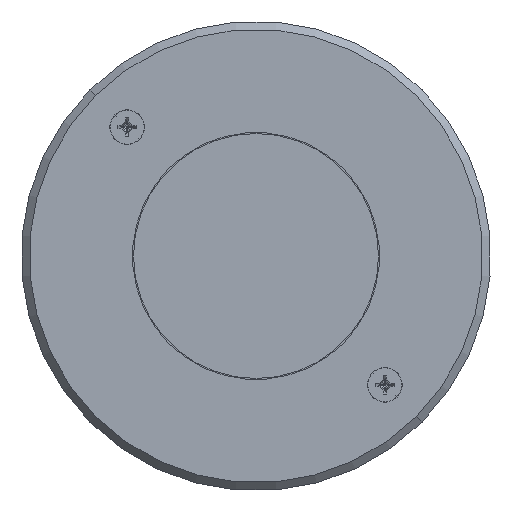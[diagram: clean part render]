
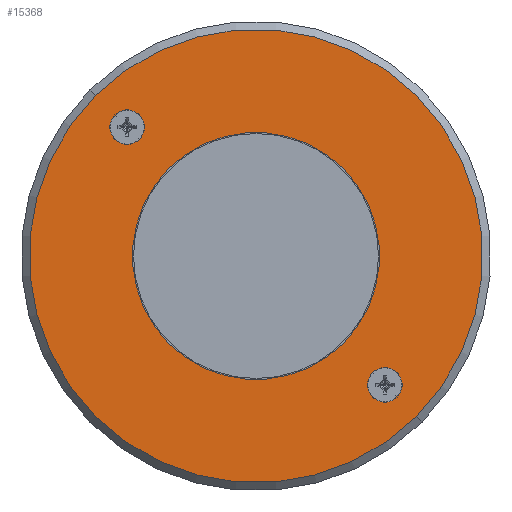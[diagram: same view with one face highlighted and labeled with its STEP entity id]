
A CAD part, front view. The second image highlights one B-rep face of the part: STEP entity #15368.
In plain terms, the highlighted planar face has unit normal (0, -1, 0) as drawn and (0, 1, 0) by its records, which use the part's own axes.
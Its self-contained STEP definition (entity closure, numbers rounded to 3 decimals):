
#14756=CARTESIAN_POINT('',(0.,3.,0.));
#14757=DIRECTION('',(0.,-1.,0.));
#14758=DIRECTION('',(-1.,0.,0.));
#14759=AXIS2_PLACEMENT_3D('',#14756,#14757,#14758);
#14761=CARTESIAN_POINT('',(0.,3.,0.));
#14762=DIRECTION('',(0.,-1.,0.));
#14763=DIRECTION('',(0.,0.,-1.));
#14764=AXIS2_PLACEMENT_3D('',#14761,#14762,#14763);
#14766=CARTESIAN_POINT('',(0.,3.,0.));
#14767=DIRECTION('',(0.,-1.,0.));
#14768=DIRECTION('',(1.,0.,0.));
#14769=AXIS2_PLACEMENT_3D('',#14766,#14767,#14768);
#14771=CARTESIAN_POINT('',(0.,3.,0.));
#14772=DIRECTION('',(0.,-1.,0.));
#14773=DIRECTION('',(0.,0.,1.));
#14774=AXIS2_PLACEMENT_3D('',#14771,#14772,#14773);
#14776=CARTESIAN_POINT('',(0.,3.,0.));
#14777=DIRECTION('',(0.,1.,0.));
#14778=DIRECTION('',(-1.,0.,0.));
#14779=AXIS2_PLACEMENT_3D('',#14776,#14777,#14778);
#14781=CARTESIAN_POINT('',(0.,3.,0.));
#14782=DIRECTION('',(0.,1.,0.));
#14783=DIRECTION('',(1.,0.,0.));
#14784=AXIS2_PLACEMENT_3D('',#14781,#14782,#14783);
#14786=CARTESIAN_POINT('',(-45.,3.,0.));
#14787=DIRECTION('',(0.,1.,0.));
#14788=DIRECTION('',(1.,0.,0.));
#14789=AXIS2_PLACEMENT_3D('',#14786,#14787,#14788);
#14791=CARTESIAN_POINT('',(-45.,3.,0.));
#14792=DIRECTION('',(0.,1.,0.));
#14793=DIRECTION('',(0.,0.,-1.));
#14794=AXIS2_PLACEMENT_3D('',#14791,#14792,#14793);
#14796=CARTESIAN_POINT('',(-45.,3.,0.));
#14797=DIRECTION('',(0.,1.,0.));
#14798=DIRECTION('',(-1.,0.,0.));
#14799=AXIS2_PLACEMENT_3D('',#14796,#14797,#14798);
#14801=CARTESIAN_POINT('',(-45.,3.,0.));
#14802=DIRECTION('',(0.,1.,0.));
#14803=DIRECTION('',(0.,0.,1.));
#14804=AXIS2_PLACEMENT_3D('',#14801,#14802,#14803);
#14806=CARTESIAN_POINT('',(45.,3.,0.));
#14807=DIRECTION('',(0.,1.,0.));
#14808=DIRECTION('',(-1.,0.,0.));
#14809=AXIS2_PLACEMENT_3D('',#14806,#14807,#14808);
#14811=CARTESIAN_POINT('',(45.,3.,0.));
#14812=DIRECTION('',(0.,1.,0.));
#14813=DIRECTION('',(0.,0.,1.));
#14814=AXIS2_PLACEMENT_3D('',#14811,#14812,#14813);
#14816=CARTESIAN_POINT('',(45.,3.,0.));
#14817=DIRECTION('',(0.,1.,0.));
#14818=DIRECTION('',(1.,0.,0.));
#14819=AXIS2_PLACEMENT_3D('',#14816,#14817,#14818);
#14821=CARTESIAN_POINT('',(45.,3.,0.));
#14822=DIRECTION('',(0.,1.,0.));
#14823=DIRECTION('',(0.,0.,-1.));
#14824=AXIS2_PLACEMENT_3D('',#14821,#14822,#14823);
#15146=CARTESIAN_POINT('',(0.,3.,-56.));
#15147=CARTESIAN_POINT('',(56.,3.,0.));
#15148=VERTEX_POINT('',#15146);
#15149=VERTEX_POINT('',#15147);
#15150=CARTESIAN_POINT('',(-56.,3.,0.));
#15151=VERTEX_POINT('',#15150);
#15152=CARTESIAN_POINT('',(0.,3.,56.));
#15153=VERTEX_POINT('',#15152);
#15154=CARTESIAN_POINT('',(-30.5,3.,0.));
#15155=CARTESIAN_POINT('',(30.5,3.,0.));
#15156=VERTEX_POINT('',#15154);
#15157=VERTEX_POINT('',#15155);
#15158=CARTESIAN_POINT('',(-40.75,3.,0.));
#15159=CARTESIAN_POINT('',(-45.,3.,-4.25));
#15160=VERTEX_POINT('',#15158);
#15161=VERTEX_POINT('',#15159);
#15162=CARTESIAN_POINT('',(-49.25,3.,0.));
#15163=VERTEX_POINT('',#15162);
#15164=CARTESIAN_POINT('',(-45.,3.,4.25));
#15165=VERTEX_POINT('',#15164);
#15166=CARTESIAN_POINT('',(40.75,3.,0.));
#15167=CARTESIAN_POINT('',(45.,3.,4.25));
#15168=VERTEX_POINT('',#15166);
#15169=VERTEX_POINT('',#15167);
#15170=CARTESIAN_POINT('',(49.25,3.,0.));
#15171=VERTEX_POINT('',#15170);
#15172=CARTESIAN_POINT('',(45.,3.,-4.25));
#15173=VERTEX_POINT('',#15172);
#15329=CARTESIAN_POINT('',(0.,3.,0.));
#15330=DIRECTION('',(0.,1.,0.));
#15331=DIRECTION('',(1.,0.,0.));
#15332=AXIS2_PLACEMENT_3D('',#15329,#15330,#15331);
#15333=PLANE('',#15332);
#15334=ORIENTED_EDGE('',*,*,#15318,.T.);
#15335=ORIENTED_EDGE('',*,*,#15316,.T.);
#15337=ORIENTED_EDGE('',*,*,#15336,.T.);
#15339=ORIENTED_EDGE('',*,*,#15338,.T.);
#15340=EDGE_LOOP('',(#15334,#15335,#15337,#15339));
#15341=FACE_OUTER_BOUND('',#15340,.F.);
#15343=ORIENTED_EDGE('',*,*,#15342,.T.);
#15345=ORIENTED_EDGE('',*,*,#15344,.T.);
#15346=EDGE_LOOP('',(#15343,#15345));
#15347=FACE_BOUND('',#15346,.F.);
#15349=ORIENTED_EDGE('',*,*,#15348,.T.);
#15351=ORIENTED_EDGE('',*,*,#15350,.T.);
#15353=ORIENTED_EDGE('',*,*,#15352,.T.);
#15355=ORIENTED_EDGE('',*,*,#15354,.T.);
#15356=EDGE_LOOP('',(#15349,#15351,#15353,#15355));
#15357=FACE_BOUND('',#15356,.F.);
#15359=ORIENTED_EDGE('',*,*,#15358,.T.);
#15361=ORIENTED_EDGE('',*,*,#15360,.T.);
#15363=ORIENTED_EDGE('',*,*,#15362,.T.);
#15365=ORIENTED_EDGE('',*,*,#15364,.T.);
#15366=EDGE_LOOP('',(#15359,#15361,#15363,#15365));
#15367=FACE_BOUND('',#15366,.F.);
#15368=ADVANCED_FACE('',(#15341,#15347,#15357,#15367),#15333,.T.);
#14760=CIRCLE('',#14759,56.);
#14765=CIRCLE('',#14764,56.);
#14770=CIRCLE('',#14769,56.);
#14775=CIRCLE('',#14774,56.);
#14780=CIRCLE('',#14779,30.5);
#14785=CIRCLE('',#14784,30.5);
#14790=CIRCLE('',#14789,4.25);
#14795=CIRCLE('',#14794,4.25);
#14800=CIRCLE('',#14799,4.25);
#14805=CIRCLE('',#14804,4.25);
#14810=CIRCLE('',#14809,4.25);
#14815=CIRCLE('',#14814,4.25);
#14820=CIRCLE('',#14819,4.25);
#14825=CIRCLE('',#14824,4.25);
#15316=EDGE_CURVE('',#15148,#15149,#14765,.T.);
#15318=EDGE_CURVE('',#15151,#15148,#14760,.T.);
#15336=EDGE_CURVE('',#15149,#15153,#14770,.T.);
#15338=EDGE_CURVE('',#15153,#15151,#14775,.T.);
#15342=EDGE_CURVE('',#15156,#15157,#14780,.T.);
#15344=EDGE_CURVE('',#15157,#15156,#14785,.T.);
#15348=EDGE_CURVE('',#15160,#15161,#14790,.T.);
#15350=EDGE_CURVE('',#15161,#15163,#14795,.T.);
#15352=EDGE_CURVE('',#15163,#15165,#14800,.T.);
#15354=EDGE_CURVE('',#15165,#15160,#14805,.T.);
#15358=EDGE_CURVE('',#15168,#15169,#14810,.T.);
#15360=EDGE_CURVE('',#15169,#15171,#14815,.T.);
#15362=EDGE_CURVE('',#15171,#15173,#14820,.T.);
#15364=EDGE_CURVE('',#15173,#15168,#14825,.T.);
